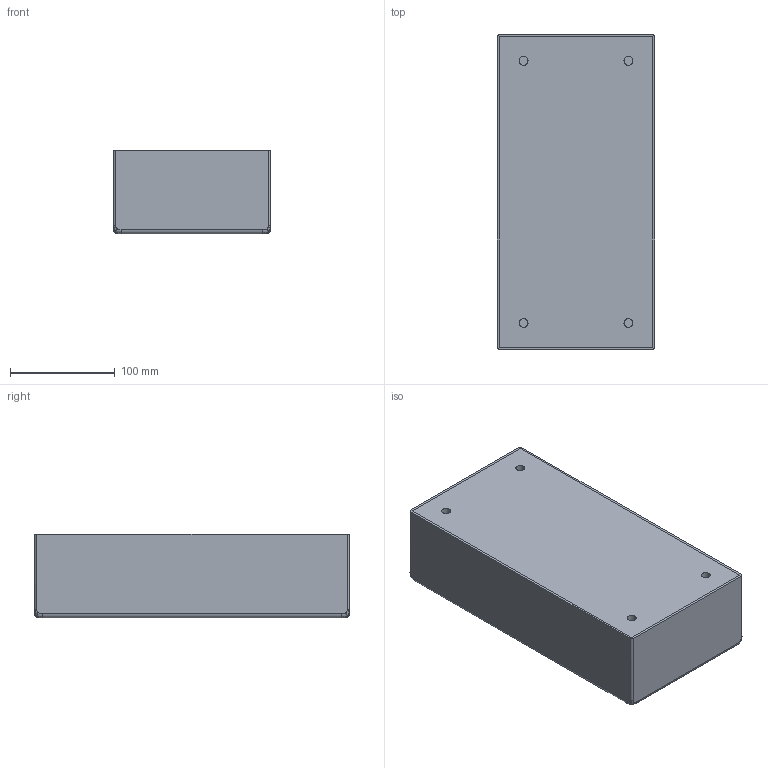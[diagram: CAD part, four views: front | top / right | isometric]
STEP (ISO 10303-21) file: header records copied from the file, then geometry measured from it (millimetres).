
FILE_DESCRIPTION(/* description */ (''),/* implementation_level */ '2;1');
FILE_NAME(/* name */ 'SMB-15-30.step',/* time_stamp */ '2023-07-05T14:14:45+09:00',/* author */ (''),/* organization */ (''),/* preprocessor_version */ 'ST-DEVELOPER v19.2',/* originating_system */ 'Autodesk Translation Framework v12.6.0.85',/* authorisation */ '');
FILE_SCHEMA (('AUTOMOTIVE_DESIGN { 1 0 10303 214 3 1 1 }'));
Length unit declared in the file: millimetre
Products named in the file (1): 3782-1_SMB-15-30
Bounding box: 150 x 300 x 80 mm (x, y, z)
Volume: 742352.6 mm3; surface area: 326198.5 mm2
Topology: 2 solids, 2 shells, 57 faces, 140 edges, 88 vertices
Faces by surface type: bspline 24, plane 17, cylinder 16
Full cylindrical faces by diameter (mm): 8.526 x4
Entity records: 4544 total; most frequent: CARTESIAN_POINT 3246, ORIENTED_EDGE 280, DIRECTION 216, EDGE_CURVE 140, VERTEX_POINT 88, AXIS2_PLACEMENT_3D 82, EDGE_LOOP 66, FACE_OUTER_BOUND 57
